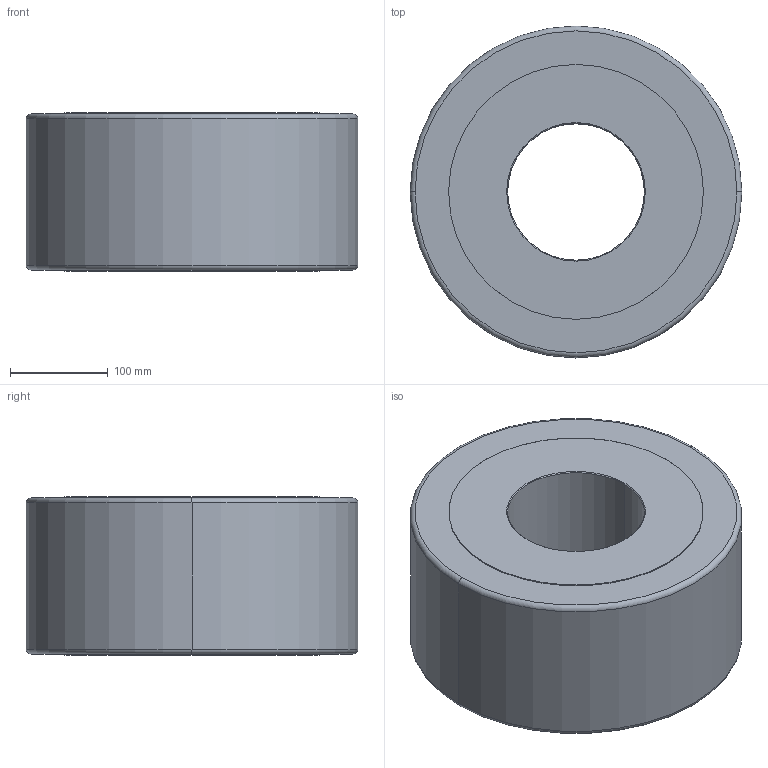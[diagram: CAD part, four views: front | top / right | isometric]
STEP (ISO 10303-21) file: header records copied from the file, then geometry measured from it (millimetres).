
FILE_DESCRIPTION (( 'STEP AP214' ), '1' );
FILE_NAME ('3DRSU140-340.STEP', '2013-12-19T09:50:58', ( 'usuario' ), ( 'Hewlett-Packard Company' ), 'SwSTEP 2.0', 'SolidWorks 2017', '' );
FILE_SCHEMA (( 'AUTOMOTIVE_DESIGN' ));
Length unit declared in the file: millimetre
Products named in the file (1): 3DRSU140-340
Bounding box: 340 x 340 x 162 mm (x, y, z)
Volume: 12128230.9 mm3; surface area: 389471.9 mm2
Topology: 1 solids, 1 shells, 20 faces, 40 edges, 24 vertices
Faces by surface type: cylinder 8, cone 4, torus 4, plane 4
Entity records: 566 total; most frequent: DIRECTION 110, CARTESIAN_POINT 85, ORIENTED_EDGE 80, AXIS2_PLACEMENT_3D 49, EDGE_CURVE 40, CIRCLE 28, EDGE_LOOP 24, VERTEX_POINT 24
